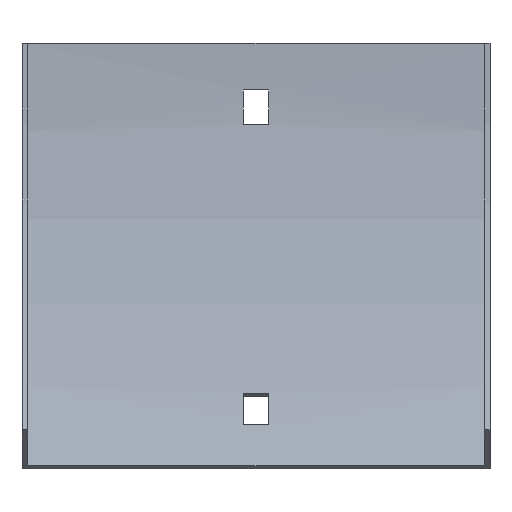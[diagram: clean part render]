
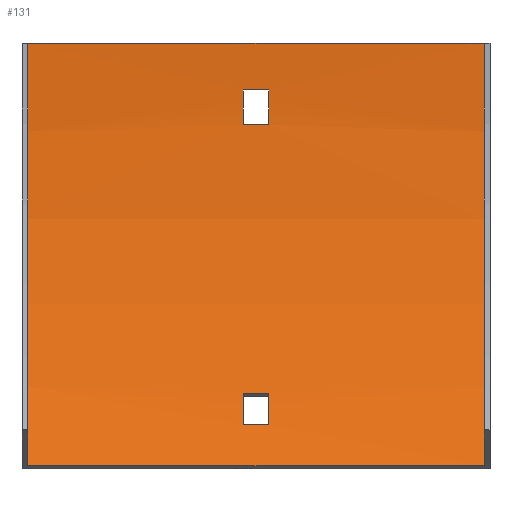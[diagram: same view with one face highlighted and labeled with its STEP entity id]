
A CAD part, front view. The second image highlights one B-rep face of the part: STEP entity #131.
In plain terms, the highlighted cylindrical face has radius 217.5 mm (diameter 435 mm), a partial arc.
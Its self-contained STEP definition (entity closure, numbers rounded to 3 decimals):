
#4 = ORIENTED_EDGE ( 'NONE', *, *, #341, .T. ) ;
#5 = EDGE_CURVE ( 'NONE', #172, #305, #602, .T. ) ;
#11 = CARTESIAN_POINT ( 'NONE',  ( -58.75, -1.5, 0. ) ) ;
#21 = EDGE_CURVE ( 'NONE', #352, #172, #356, .T. ) ;
#32 = EDGE_CURVE ( 'NONE', #576, #494, #559, .T. ) ;
#37 = DIRECTION ( 'NONE',  ( 1., 0., 0. ) ) ;
#39 = DIRECTION ( 'NONE',  ( 1., 0., 0. ) ) ;
#47 = CYLINDRICAL_SURFACE ( 'NONE', #185, 217.5 ) ;
#59 = CARTESIAN_POINT ( 'NONE',  ( 3.25, -1.831, -12. ) ) ;
#70 = CARTESIAN_POINT ( 'NONE',  ( 58.75, -30.639, -108.75 ) ) ;
#77 = VECTOR ( 'NONE', #382, 1000. ) ;
#78 = CARTESIAN_POINT ( 'NONE',  ( -3.25, -219., 0. ) ) ;
#84 = VERTEX_POINT ( 'NONE', #103 ) ;
#87 = CIRCLE ( 'NONE', #528, 217.5 ) ;
#89 = ORIENTED_EDGE ( 'NONE', *, *, #5, .T. ) ;
#98 = FACE_BOUND ( 'NONE', #349, .T. ) ;
#99 = ORIENTED_EDGE ( 'NONE', *, *, #297, .F. ) ;
#103 = CARTESIAN_POINT ( 'NONE',  ( -58.75, -30.639, -108.75 ) ) ;
#106 = CARTESIAN_POINT ( 'NONE',  ( 58.75, -219., 0. ) ) ;
#114 = DIRECTION ( 'NONE',  ( 1., 0., 0. ) ) ;
#131 = ADVANCED_FACE ( 'NONE', ( #145, #372, #98 ), #47, .F. ) ;
#145 = FACE_BOUND ( 'NONE', #362, .T. ) ;
#153 = CIRCLE ( 'NONE', #496, 217.5 ) ;
#158 = DIRECTION ( 'NONE',  ( -1., 0., 0. ) ) ;
#172 = VERTEX_POINT ( 'NONE', #487 ) ;
#182 = CARTESIAN_POINT ( 'NONE',  ( -3.25, -24.926, -98.192 ) ) ;
#183 = ORIENTED_EDGE ( 'NONE', *, *, #557, .F. ) ;
#184 = VECTOR ( 'NONE', #287, 1000. ) ;
#185 = AXIS2_PLACEMENT_3D ( 'NONE', #238, #198, #236 ) ;
#198 = DIRECTION ( 'NONE',  ( -1., 0., 0. ) ) ;
#199 = CARTESIAN_POINT ( 'NONE',  ( -58.75, -219., 0. ) ) ;
#207 = DIRECTION ( 'NONE',  ( 1., 0., 0. ) ) ;
#214 = VERTEX_POINT ( 'NONE', #59 ) ;
#216 = EDGE_CURVE ( 'NONE', #531, #526, #392, .T. ) ;
#226 = DIRECTION ( 'NONE',  ( -1., 0., 0. ) ) ;
#231 = AXIS2_PLACEMENT_3D ( 'NONE', #106, #207, #387 ) ;
#236 = DIRECTION ( 'NONE',  ( 0., 0., 1. ) ) ;
#238 = CARTESIAN_POINT ( 'NONE',  ( 60.25, -219., 0. ) ) ;
#239 = EDGE_CURVE ( 'NONE', #536, #531, #537, .T. ) ;
#249 = ORIENTED_EDGE ( 'NONE', *, *, #239, .T. ) ;
#263 = ORIENTED_EDGE ( 'NONE', *, *, #391, .T. ) ;
#272 = VERTEX_POINT ( 'NONE', #541 ) ;
#280 = CARTESIAN_POINT ( 'NONE',  ( 3.25, -219., 0. ) ) ;
#283 = DIRECTION ( 'NONE',  ( 0., 0., 1. ) ) ;
#287 = DIRECTION ( 'NONE',  ( -1., 0., 0. ) ) ;
#288 = CARTESIAN_POINT ( 'NONE',  ( 58.75, -30.639, -108.75 ) ) ;
#291 = CARTESIAN_POINT ( 'NONE',  ( -3.25, -2.516, -21. ) ) ;
#297 = EDGE_CURVE ( 'NONE', #214, #539, #502, .T. ) ;
#305 = VERTEX_POINT ( 'NONE', #182 ) ;
#322 = ORIENTED_EDGE ( 'NONE', *, *, #32, .F. ) ;
#323 = AXIS2_PLACEMENT_3D ( 'NONE', #78, #37, #507 ) ;
#327 = DIRECTION ( 'NONE',  ( 1., 0., 0. ) ) ;
#334 = CARTESIAN_POINT ( 'NONE',  ( 60.25, -24.926, -98.192 ) ) ;
#336 = CIRCLE ( 'NONE', #323, 217.5 ) ;
#338 = CARTESIAN_POINT ( 'NONE',  ( 58.75, -1.5, 0. ) ) ;
#341 = EDGE_CURVE ( 'NONE', #272, #352, #497, .T. ) ;
#349 = EDGE_LOOP ( 'NONE', ( #89, #263, #4, #390 ) ) ;
#352 = VERTEX_POINT ( 'NONE', #359 ) ;
#354 = ORIENTED_EDGE ( 'NONE', *, *, #577, .F. ) ;
#356 = CIRCLE ( 'NONE', #495, 217.5 ) ;
#359 = CARTESIAN_POINT ( 'NONE',  ( 3.25, -21.02, -90.055 ) ) ;
#362 = EDGE_LOOP ( 'NONE', ( #354, #99, #580, #322 ) ) ;
#365 = VECTOR ( 'NONE', #381, 1000. ) ;
#367 = VECTOR ( 'NONE', #39, 1000. ) ;
#368 = CARTESIAN_POINT ( 'NONE',  ( 3.25, -219., 0. ) ) ;
#372 = FACE_OUTER_BOUND ( 'NONE', #523, .T. ) ;
#381 = DIRECTION ( 'NONE',  ( 1., 0., 0. ) ) ;
#382 = DIRECTION ( 'NONE',  ( -1., 0., 0. ) ) ;
#386 = CIRCLE ( 'NONE', #562, 217.5 ) ;
#387 = DIRECTION ( 'NONE',  ( 0., 0., 1. ) ) ;
#390 = ORIENTED_EDGE ( 'NONE', *, *, #21, .T. ) ;
#391 = EDGE_CURVE ( 'NONE', #305, #272, #336, .T. ) ;
#392 = LINE ( 'NONE', #338, #553 ) ;
#393 = ORIENTED_EDGE ( 'NONE', *, *, #564, .F. ) ;
#394 = CARTESIAN_POINT ( 'NONE',  ( -3.25, -219., 0. ) ) ;
#404 = CARTESIAN_POINT ( 'NONE',  ( 60.25, -21.02, -90.055 ) ) ;
#428 = DIRECTION ( 'NONE',  ( 0., 0., 1. ) ) ;
#435 = DIRECTION ( 'NONE',  ( -1., 0., 0. ) ) ;
#463 = DIRECTION ( 'NONE',  ( -1., 0., 0. ) ) ;
#476 = CARTESIAN_POINT ( 'NONE',  ( 60.25, -2.516, -21. ) ) ;
#477 = ORIENTED_EDGE ( 'NONE', *, *, #216, .T. ) ;
#487 = CARTESIAN_POINT ( 'NONE',  ( 3.25, -24.926, -98.192 ) ) ;
#490 = DIRECTION ( 'NONE',  ( 0., 0., 1. ) ) ;
#494 = VERTEX_POINT ( 'NONE', #519 ) ;
#495 = AXIS2_PLACEMENT_3D ( 'NONE', #280, #463, #283 ) ;
#496 = AXIS2_PLACEMENT_3D ( 'NONE', #199, #114, #490 ) ;
#497 = LINE ( 'NONE', #404, #367 ) ;
#502 = LINE ( 'NONE', #543, #545 ) ;
#507 = DIRECTION ( 'NONE',  ( 0., 0., -1. ) ) ;
#510 = EDGE_CURVE ( 'NONE', #494, #214, #386, .T. ) ;
#519 = CARTESIAN_POINT ( 'NONE',  ( 3.25, -2.516, -21. ) ) ;
#523 = EDGE_LOOP ( 'NONE', ( #393, #183, #249, #477 ) ) ;
#526 = VERTEX_POINT ( 'NONE', #11 ) ;
#528 = AXIS2_PLACEMENT_3D ( 'NONE', #394, #158, #428 ) ;
#531 = VERTEX_POINT ( 'NONE', #585 ) ;
#532 = CARTESIAN_POINT ( 'NONE',  ( -3.25, -1.831, -12. ) ) ;
#536 = VERTEX_POINT ( 'NONE', #70 ) ;
#537 = CIRCLE ( 'NONE', #231, 217.5 ) ;
#539 = VERTEX_POINT ( 'NONE', #532 ) ;
#541 = CARTESIAN_POINT ( 'NONE',  ( -3.25, -21.02, -90.055 ) ) ;
#543 = CARTESIAN_POINT ( 'NONE',  ( 60.25, -1.831, -12. ) ) ;
#545 = VECTOR ( 'NONE', #226, 1000. ) ;
#553 = VECTOR ( 'NONE', #435, 1000. ) ;
#555 = DIRECTION ( 'NONE',  ( 0., 0., -1. ) ) ;
#557 = EDGE_CURVE ( 'NONE', #536, #84, #558, .T. ) ;
#558 = LINE ( 'NONE', #288, #77 ) ;
#559 = LINE ( 'NONE', #476, #365 ) ;
#562 = AXIS2_PLACEMENT_3D ( 'NONE', #368, #327, #555 ) ;
#564 = EDGE_CURVE ( 'NONE', #84, #526, #153, .T. ) ;
#576 = VERTEX_POINT ( 'NONE', #291 ) ;
#577 = EDGE_CURVE ( 'NONE', #539, #576, #87, .T. ) ;
#580 = ORIENTED_EDGE ( 'NONE', *, *, #510, .F. ) ;
#585 = CARTESIAN_POINT ( 'NONE',  ( 58.75, -1.5, 0. ) ) ;
#602 = LINE ( 'NONE', #334, #184 ) ;
